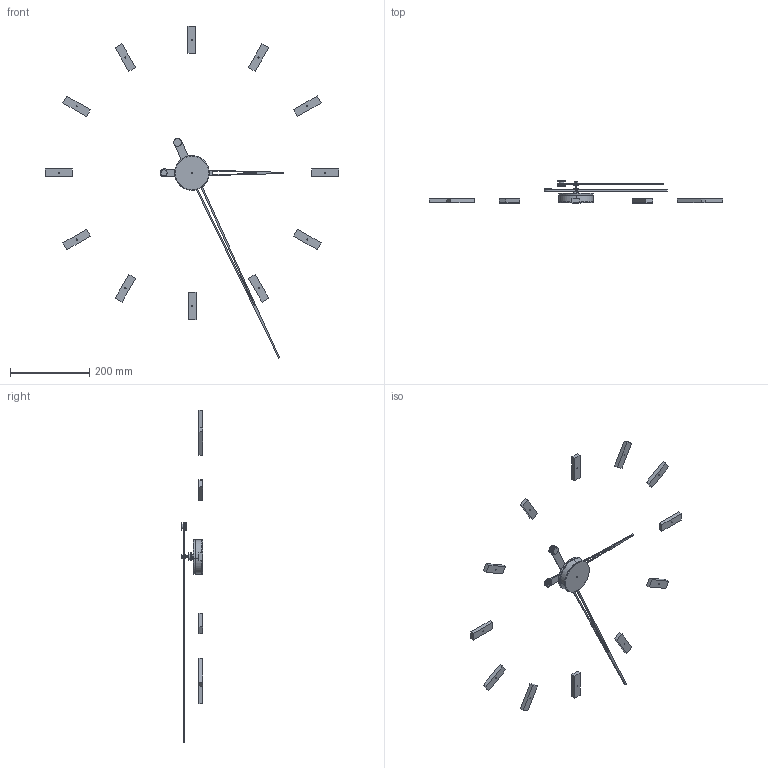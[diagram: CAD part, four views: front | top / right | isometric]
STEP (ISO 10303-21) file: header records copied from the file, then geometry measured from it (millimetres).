
FILE_DESCRIPTION (( 'STEP AP214' ), '1' );
FILE_NAME ('Tacón_g.STEP', '2016-09-15T10:57:03', ( '' ), ( '' ), 'SwSTEP 2.0', 'SolidWorks 2013', '' );
FILE_SCHEMA (( 'AUTOMOTIVE_DESIGN' ));
Length unit declared in the file: millimetre
Products named in the file (21): Mecanismo; Arandela_2; Aguja_minutera_calada_nogal; Esparrago; Tuerca 1.5; Pieza_caja_inferior; Tacón_g; Contrapeso grande; aguja_minutera_calada_nogal; Inserto horaria; Cierre_contrapeso; Caja_acero_inox; Axioma_g_100; Pieza2; Pieza_caja_superior; tuerca_7.3_1.5; Señal_horaria_Tacón; Aguja_horaria_calada_nogal_74; Embellecedor; Contrapeso_pequeño; aguja_horaria_calada_nogal_74
Assembly tree (33 placements, depth 4):
  Tacón_g
    Axioma_g_100
      Caja_acero_inox
        Pieza_caja_inferior
        Pieza_caja_superior
        Mecanismo
        Pieza2
      Aguja_minutera_calada_nogal
        aguja_minutera_calada_nogal
        Contrapeso grande  x2
        Arandela_2
        Embellecedor
        Esparrago
        Tuerca 1.5
    Señal_horaria_Tacón  x12
    Aguja_horaria_calada_nogal_74
      aguja_horaria_calada_nogal_74
      Inserto horaria
      tuerca_7.3_1.5
      Arandela_2
      Contrapeso_pequeño
      Cierre_contrapeso
Bounding box: 739.87 x 55.2 x 835.95 mm (x, y, z)
Volume: 253714 mm3; surface area: 141651.2 mm2
Topology: 29 solids, 29 shells, 324 faces, 668 edges, 430 vertices
Faces by surface type: plane 158, cylinder 128, torus 26, cone 12
Entity records: 6720 total; most frequent: DIRECTION 1202, CARTESIAN_POINT 980, ORIENTED_EDGE 892, AXIS2_PLACEMENT_3D 504, EDGE_CURVE 446, VERTEX_POINT 282, EDGE_LOOP 254, CIRCLE 252
